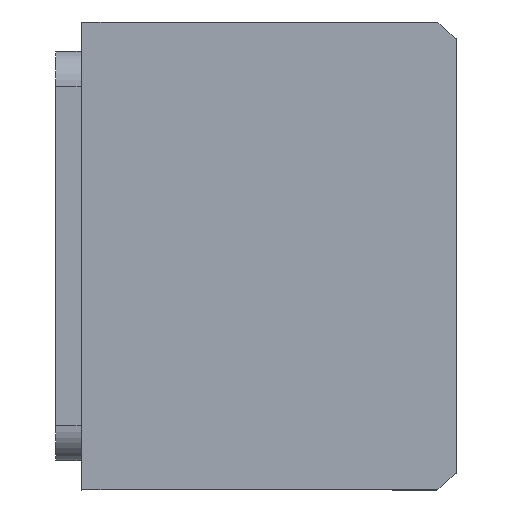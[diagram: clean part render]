
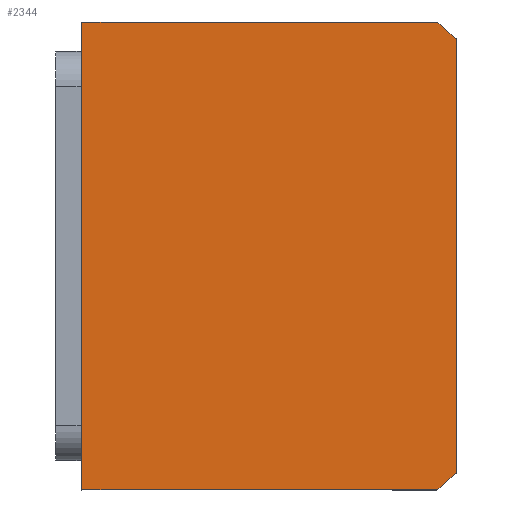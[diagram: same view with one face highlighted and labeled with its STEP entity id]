
A CAD part, front view. The second image highlights one B-rep face of the part: STEP entity #2344.
In plain terms, the highlighted planar face has unit normal (0, -1, 0) as drawn and (0, 0, -1) by its records, which use the part's own axes.
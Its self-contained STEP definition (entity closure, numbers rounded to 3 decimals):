
#48 = EDGE_CURVE ( 'NONE', #1547, #6067, #3585, .T. ) ;
#271 = DIRECTION ( 'NONE',  ( -1., 0., 0. ) ) ;
#443 = CARTESIAN_POINT ( 'NONE',  ( 0., 3., 0. ) ) ;
#742 = VECTOR ( 'NONE', #9396, 1000. ) ;
#1090 = VERTEX_POINT ( 'NONE', #4785 ) ;
#1384 = CARTESIAN_POINT ( 'NONE',  ( -40., 32., 0. ) ) ;
#1515 = DIRECTION ( 'NONE',  ( 1., 0., 0. ) ) ;
#1547 = VERTEX_POINT ( 'NONE', #8024 ) ;
#2334 = AXIS2_PLACEMENT_3D ( 'NONE', #6244, #13761, #7306 ) ;
#2344 = ADVANCED_FACE ( 'NONE', ( #5405 ), #11225, .F. ) ;
#2482 = CARTESIAN_POINT ( 'NONE',  ( 0., 0., 0. ) ) ;
#2670 = VECTOR ( 'NONE', #4442, 1000. ) ;
#2988 = EDGE_CURVE ( 'NONE', #1090, #1547, #11279, .T. ) ;
#3029 = ORIENTED_EDGE ( 'NONE', *, *, #8824, .F. ) ;
#3192 = VECTOR ( 'NONE', #5374, 1000. ) ;
#3368 = CARTESIAN_POINT ( 'NONE',  ( 40., 32., 0. ) ) ;
#3487 = VERTEX_POINT ( 'NONE', #9695 ) ;
#3585 = LINE ( 'NONE', #13620, #742 ) ;
#4297 = CARTESIAN_POINT ( 'NONE',  ( -40., 32., 0. ) ) ;
#4442 = DIRECTION ( 'NONE',  ( 0., 1., 0. ) ) ;
#4785 = CARTESIAN_POINT ( 'NONE',  ( -40., -28.639, 0. ) ) ;
#4789 = DIRECTION ( 'NONE',  ( 0., 0., 1. ) ) ;
#4804 = CIRCLE ( 'NONE', #2334, 51. ) ;
#5374 = DIRECTION ( 'NONE',  ( 0., -1., 0. ) ) ;
#5405 = FACE_OUTER_BOUND ( 'NONE', #9047, .T. ) ;
#5531 = VERTEX_POINT ( 'NONE', #1384 ) ;
#6067 = VERTEX_POINT ( 'NONE', #10845 ) ;
#6244 = CARTESIAN_POINT ( 'NONE',  ( 0., 3., 0. ) ) ;
#6584 = EDGE_CURVE ( 'NONE', #6067, #3487, #4804, .T. ) ;
#6685 = CARTESIAN_POINT ( 'NONE',  ( -40., 32., 0. ) ) ;
#7072 = ORIENTED_EDGE ( 'NONE', *, *, #12892, .F. ) ;
#7212 = VERTEX_POINT ( 'NONE', #9225 ) ;
#7306 = DIRECTION ( 'NONE',  ( 1., 0., 0. ) ) ;
#7935 = DIRECTION ( 'NONE',  ( 0., 0., 1. ) ) ;
#8024 = CARTESIAN_POINT ( 'NONE',  ( -37.094, -32., 0. ) ) ;
#8047 = ORIENTED_EDGE ( 'NONE', *, *, #2988, .F. ) ;
#8116 = EDGE_CURVE ( 'NONE', #5531, #1090, #9229, .T. ) ;
#8591 = ORIENTED_EDGE ( 'NONE', *, *, #6584, .F. ) ;
#8824 = EDGE_CURVE ( 'NONE', #3487, #7212, #10890, .T. ) ;
#9047 = EDGE_LOOP ( 'NONE', ( #8047, #11108, #7072, #3029, #8591, #12331 ) ) ;
#9225 = CARTESIAN_POINT ( 'NONE',  ( 40., 32., 0. ) ) ;
#9227 = AXIS2_PLACEMENT_3D ( 'NONE', #2482, #4789, #12312 ) ;
#9229 = LINE ( 'NONE', #4297, #3192 ) ;
#9300 = LINE ( 'NONE', #6685, #12509 ) ;
#9396 = DIRECTION ( 'NONE',  ( 1., 0., 0. ) ) ;
#9695 = CARTESIAN_POINT ( 'NONE',  ( 40., -28.639, 0. ) ) ;
#10397 = AXIS2_PLACEMENT_3D ( 'NONE', #443, #7935, #1515 ) ;
#10845 = CARTESIAN_POINT ( 'NONE',  ( 37.094, -32., 0. ) ) ;
#10890 = LINE ( 'NONE', #3368, #2670 ) ;
#11108 = ORIENTED_EDGE ( 'NONE', *, *, #8116, .F. ) ;
#11225 = PLANE ( 'NONE',  #9227 ) ;
#11279 = CIRCLE ( 'NONE', #10397, 51. ) ;
#12312 = DIRECTION ( 'NONE',  ( 1., 0., 0. ) ) ;
#12331 = ORIENTED_EDGE ( 'NONE', *, *, #48, .F. ) ;
#12509 = VECTOR ( 'NONE', #271, 1000. ) ;
#12892 = EDGE_CURVE ( 'NONE', #7212, #5531, #9300, .T. ) ;
#13620 = CARTESIAN_POINT ( 'NONE',  ( -40., -32., 0. ) ) ;
#13761 = DIRECTION ( 'NONE',  ( 0., 0., 1. ) ) ;
